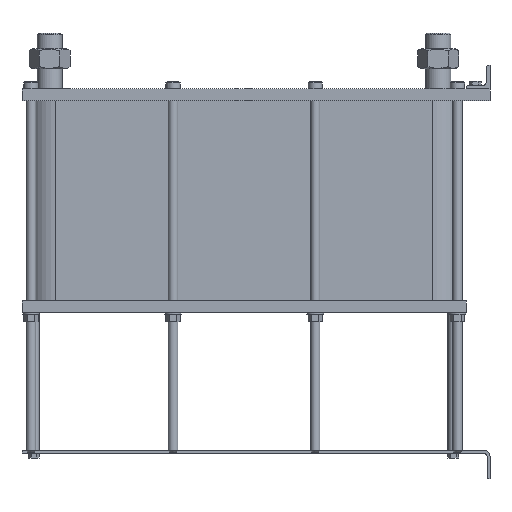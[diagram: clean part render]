
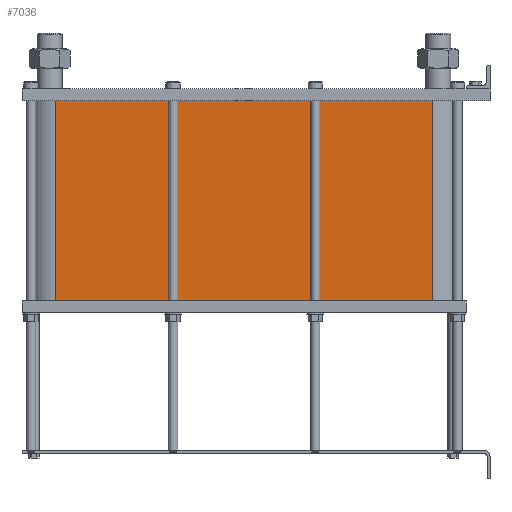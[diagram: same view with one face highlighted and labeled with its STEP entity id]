
A CAD part, left-side view. The second image highlights one B-rep face of the part: STEP entity #7036.
In plain terms, the highlighted planar face has unit normal (-1, 0, 0).
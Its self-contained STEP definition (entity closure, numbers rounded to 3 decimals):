
#999=LINE('',#15640,#1553);
#1031=LINE('',#15723,#1585);
#1032=LINE('',#15726,#1586);
#1033=LINE('',#15727,#1587);
#1553=VECTOR('',#9658,10.);
#1585=VECTOR('',#9736,10.);
#1586=VECTOR('',#9741,10.);
#1587=VECTOR('',#9742,10.);
#2117=FACE_OUTER_BOUND('',#2671,.T.);
#2671=EDGE_LOOP('',(#6246,#6247,#6248,#6249));
#3527=VERTEX_POINT('',#15634);
#3529=VERTEX_POINT('',#15638);
#3556=VERTEX_POINT('',#15720);
#3557=VERTEX_POINT('',#15722);
#4425=EDGE_CURVE('',#3529,#3527,#999,.T.);
#4466=EDGE_CURVE('',#3557,#3556,#1031,.T.);
#4468=EDGE_CURVE('',#3527,#3556,#1032,.T.);
#4469=EDGE_CURVE('',#3557,#3529,#1033,.T.);
#6246=ORIENTED_EDGE('',*,*,#4468,.F.);
#6247=ORIENTED_EDGE('',*,*,#4425,.F.);
#6248=ORIENTED_EDGE('',*,*,#4469,.F.);
#6249=ORIENTED_EDGE('',*,*,#4466,.T.);
#6608=PLANE('',#7812);
#7036=ADVANCED_FACE('',(#2117),#6608,.T.);
#7812=AXIS2_PLACEMENT_3D('',#15725,#9739,#9740);
#9658=DIRECTION('',(0.,0.,-1.));
#9736=DIRECTION('',(0.,0.,-1.));
#9739=DIRECTION('center_axis',(-1.,0.,0.));
#9740=DIRECTION('ref_axis',(0.,1.,0.));
#9741=DIRECTION('',(0.,1.,0.));
#9742=DIRECTION('',(0.,-1.,0.));
#15634=CARTESIAN_POINT('',(-72.,97.5,-337.9));
#15638=CARTESIAN_POINT('',(-72.,97.5,0.));
#15640=CARTESIAN_POINT('',(-72.,97.5,0.));
#15720=CARTESIAN_POINT('',(-72.,733.5,-337.9));
#15722=CARTESIAN_POINT('',(-72.,733.5,0.));
#15723=CARTESIAN_POINT('',(-72.,733.5,0.));
#15725=CARTESIAN_POINT('Origin',(-72.,97.5,0.));
#15726=CARTESIAN_POINT('',(-72.,256.5,-337.9));
#15727=CARTESIAN_POINT('',(-72.,733.5,0.));
